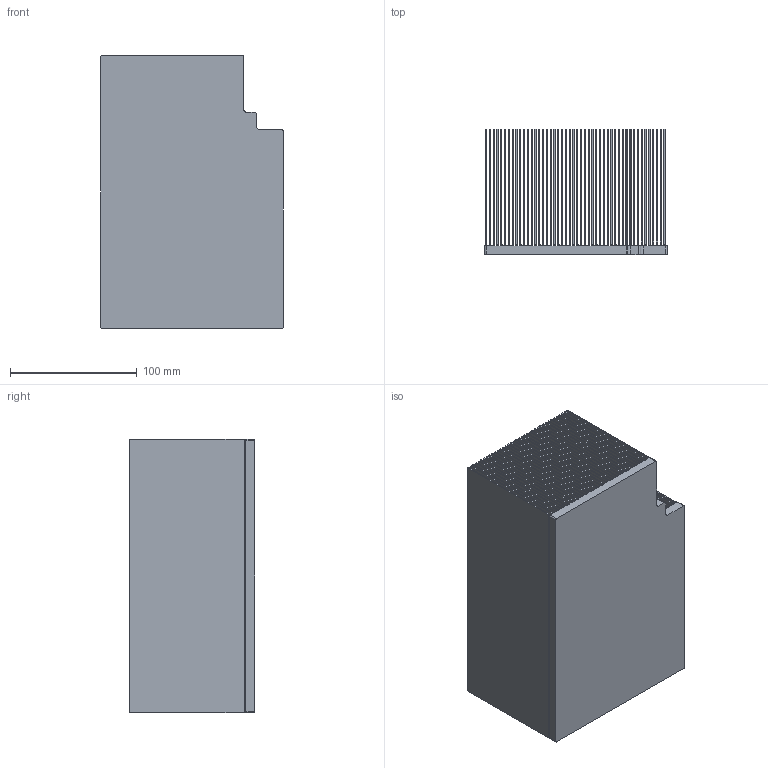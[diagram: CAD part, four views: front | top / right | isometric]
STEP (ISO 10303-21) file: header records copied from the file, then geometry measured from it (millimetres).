
FILE_DESCRIPTION (( 'STEP AP203' ), '1' );
FILE_NAME ('RX616-029-00.STEP', '2026-07-14T11:41:53', ( '' ), ( '' ), 'SwSTEP 2.0', 'SolidWorks 2023', '' );
FILE_SCHEMA (( 'CONFIG_CONTROL_DESIGN' ));
Length unit declared in the file: millimetre
Products named in the file (1): RX616-029-00
Bounding box: 144 x 99 x 216 mm (x, y, z)
Volume: 1109760.6 mm3; surface area: 1882691.6 mm2
Topology: 1 solids, 1 shells, 308 faces, 909 edges, 603 vertices
Faces by surface type: plane 203, cylinder 105
Entity records: 10348 total; most frequent: CARTESIAN_POINT 1854, ORIENTED_EDGE 1818, DIRECTION 1729, EDGE_CURVE 909, VECTOR 697, LINE 697, VERTEX_POINT 603, AXIS2_PLACEMENT_3D 516
